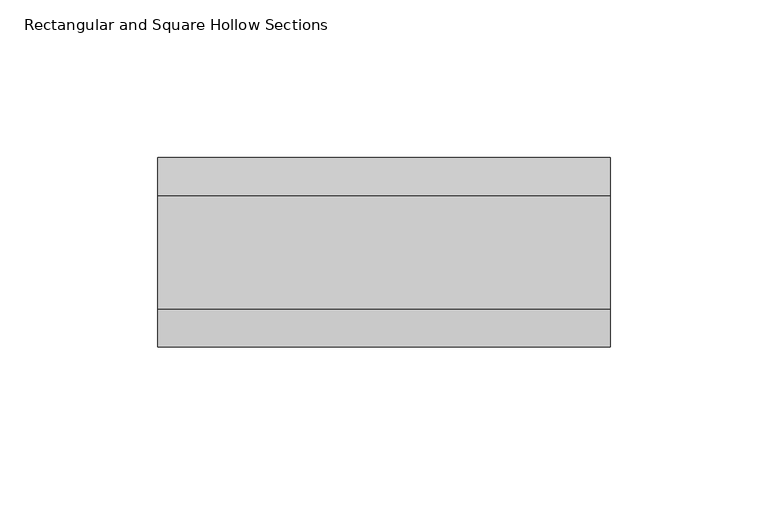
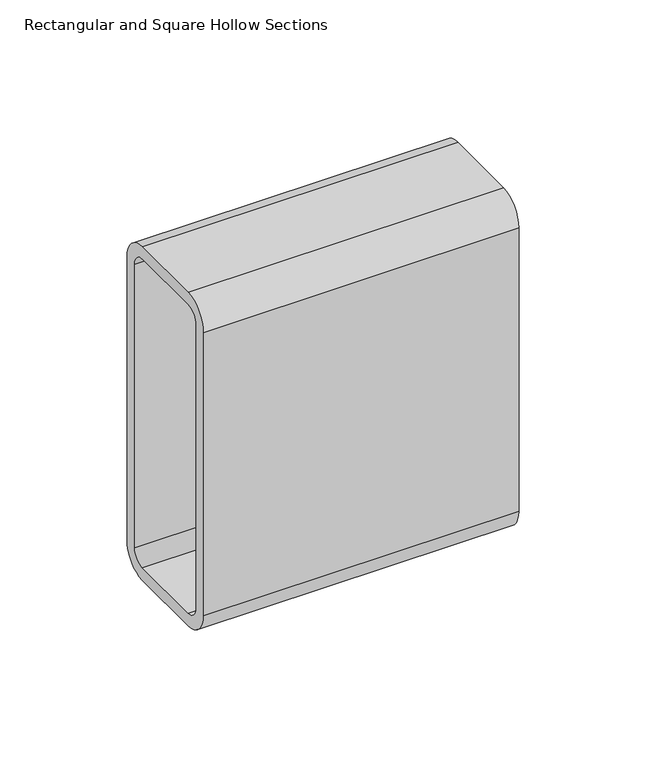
"""IFC4 building model written with IfcOpenShell, lengths in millimetres: beam geometry, Rectangular and Square Hollow Sections : TREC160x60x6."""

from ifc_helpers import new_model, si_unit, point, frame, frame_2d, origin, place, context, project, spatial, polyline, circle_curve, trimmed, segment, composite_curve, outline, extrude, source, transform, mapped, element, save


def rectangular_and_square_hollow_sections_bbca22d7(model_context):
    return source(origin(), model_context, "Body", "SweptSolid", [
        extrude(outline(composite_curve([segment(polyline([(30.0, 68.0), (30.0, -68.0)]), True, "CONTINUOUS"), segment(trimmed(circle_curve(frame_2d((18.0, -68.0)), 12.0), [point((30.0, -68.0))], [point((18.0, -80.0))], False, "CARTESIAN"), True, "CONTINUOUS"), segment(polyline([(18.0, -80.0), (-18.0, -80.0)]), True, "CONTINUOUS"), segment(trimmed(circle_curve(frame_2d((-18.0, -68.0)), 12.0), [point((-18.0, -80.0))], [point((-30.0, -68.0))], False, "CARTESIAN"), True, "CONTINUOUS"), segment(polyline([(-30.0, -68.0), (-30.0, 68.0)]), True, "CONTINUOUS"), segment(trimmed(circle_curve(frame_2d((-18.0, 68.0)), 12.0), [point((-30.0, 68.0))], [point((-18.0, 80.0))], False, "CARTESIAN"), True, "CONTINUOUS"), segment(polyline([(-18.0, 80.0), (18.0, 80.0)]), True, "CONTINUOUS"), segment(trimmed(circle_curve(frame_2d((18.0, 68.0)), 12.0), [point((18.0, 80.0))], [point((30.0, 68.0))], False, "CARTESIAN"), True, "CONTINUOUS")], self_intersect=False), holes=[composite_curve([segment(trimmed(circle_curve(frame_2d((-18.0, 68.0)), 6.0), [point((-18.0, 74.0))], [point((-24.0, 68.0))], True, "CARTESIAN"), True, "CONTINUOUS"), segment(polyline([(-24.0, 68.0), (-24.0, -68.0)]), True, "CONTINUOUS"), segment(trimmed(circle_curve(frame_2d((-18.0, -68.0)), 6.0), [point((-24.0, -68.0))], [point((-18.0, -74.0))], True, "CARTESIAN"), True, "CONTINUOUS"), segment(polyline([(-18.0, -74.0), (18.0, -74.0)]), True, "CONTINUOUS"), segment(trimmed(circle_curve(frame_2d((18.0, -68.0)), 6.0), [point((18.0, -74.0))], [point((24.0, -68.0))], True, "CARTESIAN"), True, "CONTINUOUS"), segment(polyline([(24.0, -68.0), (24.0, 68.0)]), True, "CONTINUOUS"), segment(trimmed(circle_curve(frame_2d((18.0, 68.0)), 6.0), [point((24.0, 68.0))], [point((18.0, 74.0))], True, "CARTESIAN"), True, "CONTINUOUS"), segment(polyline([(18.0, 74.0), (-18.0, 74.0)]), True, "CONTINUOUS")], self_intersect=False)]), frame((-71.8291541, 0.0, 0.0), z_axis=(1.0, 0.0, 0.0), x_axis=(0.0, 1.0, 0.0)), (0.0, 0.0, 1.0), 143.3291542),
    ])


if __name__ == "__main__":
    model = new_model("IFC4")
    model_context = context("Model", 3, world=origin())
    ifc_project = project(units=[si_unit("LENGTHUNIT", "METRE", prefix="MILLI")], contexts=[model_context])
    site = spatial("IfcSite", under=ifc_project)
    building = spatial("IfcBuilding", under=site)
    placement = place(None, origin())
    rectangular_and_square_hollow_sections_shape = rectangular_and_square_hollow_sections_bbca22d7(model_context)
    element("IfcBeam", 1, ObjectType="Rectangular and Square Hollow Sections : TREC160x60x6", at=placement, inside=building, context=model_context, shape_type="MappedRepresentation", body=[
        mapped(rectangular_and_square_hollow_sections_shape, transform((0.0, 0.0, 0.0), x_axis=(1.0, 0.0, 0.0), y_axis=(0.0, 1.0, 0.0), z_axis=(0.0, 0.0, 1.0))),
    ])
    save(model, "model.ifc")
